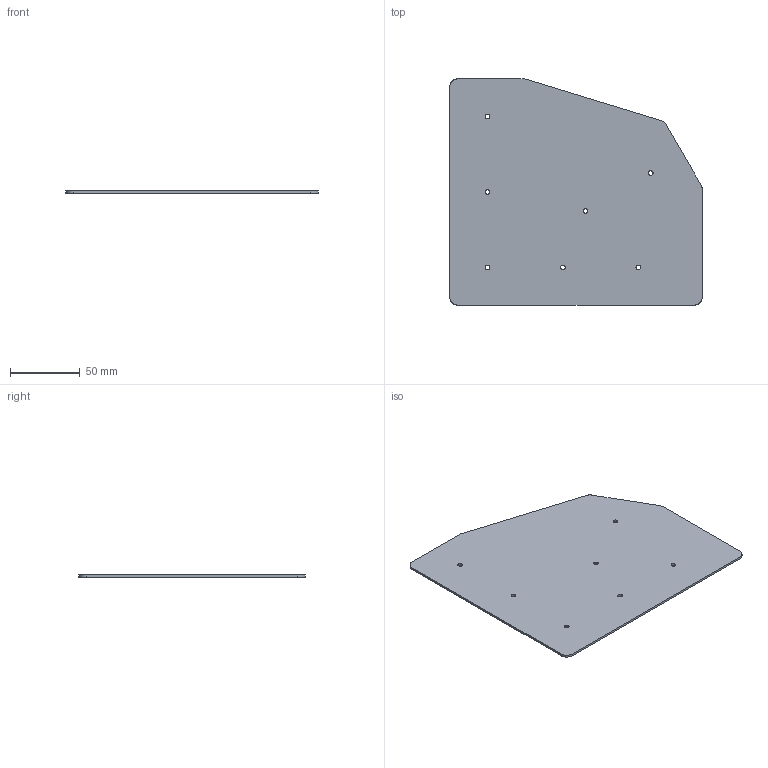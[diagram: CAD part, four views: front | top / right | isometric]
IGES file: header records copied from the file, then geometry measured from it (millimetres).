
Start section: SolidWorks IGES file using analytic representation for surfaces
Global section: file name: C:\Working\Gusset Convert\DRP-002-0015-02.igs; native system: SolidWorks 2010; preprocessor: SolidWorks 2010; author: mbush2; date: 100624.090623; units: inch
Bounding box: 180.71 x 161.93 x 1.52 mm (x, y, z)
Surface area: 53470.4 mm2 (no closed solid volume)
Topology: 0 solids, 0 shells, 28 faces, 402 edges, 402 vertices
Faces by surface type: revolution 20, bspline 8
